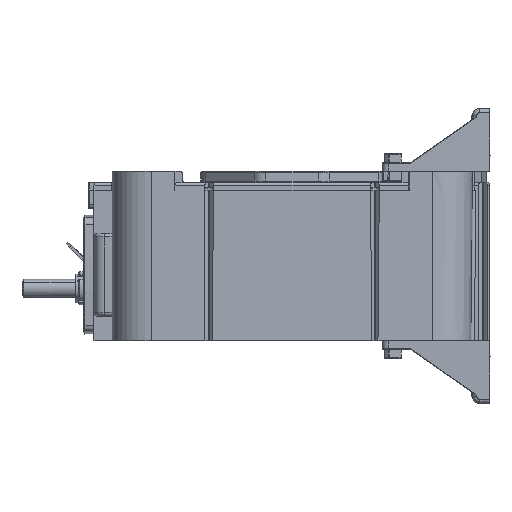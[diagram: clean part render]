
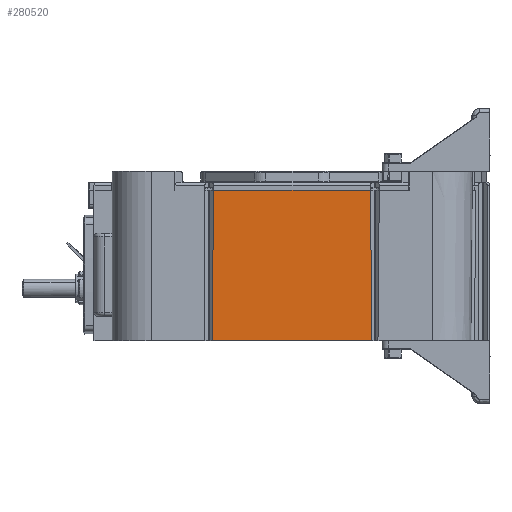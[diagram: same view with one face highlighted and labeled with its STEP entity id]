
A CAD part, left-side view. The second image highlights one B-rep face of the part: STEP entity #280520.
In plain terms, the highlighted planar face has unit normal (-1, 0, -0.009).
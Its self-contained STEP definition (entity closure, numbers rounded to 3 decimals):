
#280130=CARTESIAN_POINT('',(-49.628,33.81,33.95));
#280140=DIRECTION('',(-1.,0.,-0.009));
#280150=DIRECTION('',(0.,1.,0.));
#280160=AXIS2_PLACEMENT_3D('',#280130,#280140,#280150);
#280170=PLANE('',#280160);
#280180=CARTESIAN_POINT('',(-49.628,0.,33.95));
#280190=DIRECTION('',(0.,-1.,0.));
#280200=VECTOR('',#280190,1.);
#280210=LINE('',#280180,#280200);
#280220=CARTESIAN_POINT('',(-49.628,23.06,33.95));
#280230=VERTEX_POINT('',#280220);
#280240=CARTESIAN_POINT('',(-49.628,-20.54,33.95));
#280250=VERTEX_POINT('',#280240);
#280260=EDGE_CURVE('',#280230,#280250,#280210,.T.);
#280270=ORIENTED_EDGE('',*,*,#280260,.F.);
#280280=CARTESIAN_POINT('',(-49.628,-20.54,33.95));
#280290=DIRECTION('',(-0.009,0.009,
1.));
#280300=VECTOR('',#280290,1.);
#280310=LINE('',#280280,#280300);
#280320=CARTESIAN_POINT('',(-49.264,-20.904,
-7.85));
#280330=VERTEX_POINT('',#280320);
#280340=EDGE_CURVE('',#280330,#280250,#280310,.T.);
#280350=ORIENTED_EDGE('',*,*,#280340,.T.);
#280360=CARTESIAN_POINT('',(-49.264,0.,-7.85));
#280370=DIRECTION('',(0.,-1.,0.));
#280380=VECTOR('',#280370,1.);
#280390=LINE('',#280360,#280380);
#280400=CARTESIAN_POINT('',(-49.264,23.425,
-7.85));
#280410=VERTEX_POINT('',#280400);
#280420=EDGE_CURVE('',#280410,#280330,#280390,.T.);
#280430=ORIENTED_EDGE('',*,*,#280420,.T.);
#280440=CARTESIAN_POINT('',(-49.628,23.06,33.95));
#280450=DIRECTION('',(0.009,0.009,
-1.));
#280460=VECTOR('',#280450,1.);
#280470=LINE('',#280440,#280460);
#280480=EDGE_CURVE('',#280230,#280410,#280470,.T.);
#280490=ORIENTED_EDGE('',*,*,#280480,.T.);
#280500=EDGE_LOOP('',(#280490,#280430,#280350,#280270));
#280510=FACE_OUTER_BOUND('',#280500,.T.);
#280520=ADVANCED_FACE('',(#280510),#280170,.T.);
